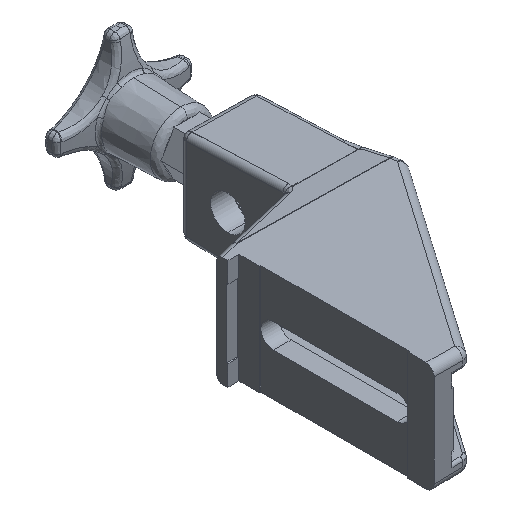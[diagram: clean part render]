
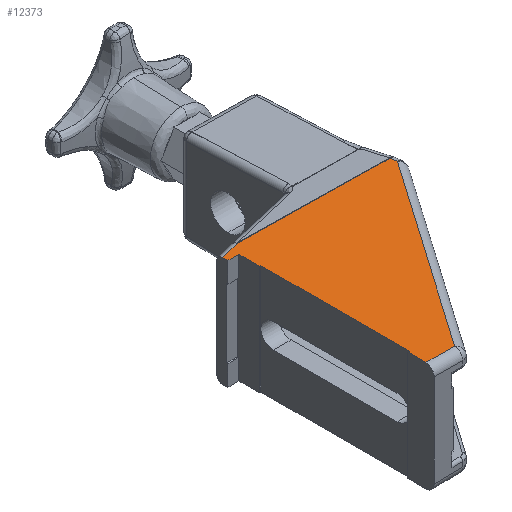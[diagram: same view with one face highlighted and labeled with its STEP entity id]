
A CAD part, isometric view. The second image highlights one B-rep face of the part: STEP entity #12373.
In plain terms, the highlighted planar face has unit normal (0.018, 0, 1).
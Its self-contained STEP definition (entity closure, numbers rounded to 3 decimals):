
#412 = ORIENTED_EDGE ( 'NONE', *, *, #2656, .T. ) ;
#506 = LINE ( 'NONE', #12046, #11286 ) ;
#707 = VECTOR ( 'NONE', #12435, 1000. ) ;
#708 = EDGE_CURVE ( 'NONE', #851, #13074, #1953, .T. ) ;
#740 = EDGE_LOOP ( 'NONE', ( #11557, #15552, #6639, #2861, #412, #11792, #2417, #12205, #10012, #9974, #8232, #1031 ) ) ;
#851 = VERTEX_POINT ( 'NONE', #5259 ) ;
#989 = VERTEX_POINT ( 'NONE', #1164 ) ;
#1031 = ORIENTED_EDGE ( 'NONE', *, *, #16150, .T. ) ;
#1164 = CARTESIAN_POINT ( 'NONE',  ( -29.125, 9.25, 19.93 ) ) ;
#1570 = VERTEX_POINT ( 'NONE', #14105 ) ;
#1679 = EDGE_CURVE ( 'NONE', #5538, #4801, #4520, .T. ) ;
#1845 = VERTEX_POINT ( 'NONE', #6693 ) ;
#1953 = LINE ( 'NONE', #13908, #14347 ) ;
#2213 = LINE ( 'NONE', #14532, #14420 ) ;
#2417 = ORIENTED_EDGE ( 'NONE', *, *, #8870, .T. ) ;
#2472 = DIRECTION ( 'NONE',  ( 0., -1., 0. ) ) ;
#2477 = DIRECTION ( 'NONE',  ( 1., 0., -0.017 ) ) ;
#2652 = CARTESIAN_POINT ( 'NONE',  ( -29.125, -58.75, 19.93 ) ) ;
#2656 = EDGE_CURVE ( 'NONE', #989, #11874, #12018, .T. ) ;
#2729 = CARTESIAN_POINT ( 'NONE',  ( -28.625, -63.6, 19.921 ) ) ;
#2735 = LINE ( 'NONE', #3219, #707 ) ;
#2772 = CARTESIAN_POINT ( 'NONE',  ( -119.436, -58.75, 21.507 ) ) ;
#2861 = ORIENTED_EDGE ( 'NONE', *, *, #3469, .T. ) ;
#2910 = EDGE_CURVE ( 'NONE', #13741, #4801, #2213, .T. ) ;
#2948 = CARTESIAN_POINT ( 'NONE',  ( -29.125, 1.75, 19.93 ) ) ;
#3219 = CARTESIAN_POINT ( 'NONE',  ( -33.125, -52.25, 20. ) ) ;
#3460 = CARTESIAN_POINT ( 'NONE',  ( -25.884, 13.11, 19.874 ) ) ;
#3469 = EDGE_CURVE ( 'NONE', #13074, #989, #10983, .T. ) ;
#3563 = CARTESIAN_POINT ( 'NONE',  ( 11.145, 13.076, 19.227 ) ) ;
#4520 = LINE ( 'NONE', #2772, #10722 ) ;
#4753 = DIRECTION ( 'NONE',  ( 1., 0., -0.017 ) ) ;
#4801 = VERTEX_POINT ( 'NONE', #2652 ) ;
#5154 = VERTEX_POINT ( 'NONE', #9873 ) ;
#5163 = EDGE_CURVE ( 'NONE', #5154, #11352, #16277, .T. ) ;
#5216 = CARTESIAN_POINT ( 'NONE',  ( 30.025, 10.743, 18.898 ) ) ;
#5259 = CARTESIAN_POINT ( 'NONE',  ( -33.125, 11.17, 20. ) ) ;
#5496 = DIRECTION ( 'NONE',  ( 0., -1., 0. ) ) ;
#5538 = VERTEX_POINT ( 'NONE', #14877 ) ;
#6280 = LINE ( 'NONE', #9697, #9477 ) ;
#6380 = DIRECTION ( 'NONE',  ( 0.017, 0., 1. ) ) ;
#6411 = EDGE_CURVE ( 'NONE', #11874, #11026, #7922, .T. ) ;
#6639 = ORIENTED_EDGE ( 'NONE', *, *, #708, .T. ) ;
#6693 = CARTESIAN_POINT ( 'NONE',  ( -28.625, -52.25, 19.921 ) ) ;
#6714 = DIRECTION ( 'NONE',  ( -1., 0., 0.017 ) ) ;
#6868 = CARTESIAN_POINT ( 'NONE',  ( -25.884, 13.11, 19.874 ) ) ;
#7012 = DIRECTION ( 'NONE',  ( 0., -1., 0. ) ) ;
#7234 = CARTESIAN_POINT ( 'NONE',  ( 29.659, 13.059, 18.904 ) ) ;
#7601 = CARTESIAN_POINT ( 'NONE',  ( -29.125, 1.75, 19.93 ) ) ;
#7763 = EDGE_CURVE ( 'NONE', #1845, #13741, #2735, .T. ) ;
#7922 = LINE ( 'NONE', #2948, #9715 ) ;
#8232 = ORIENTED_EDGE ( 'NONE', *, *, #9340, .T. ) ;
#8392 = VECTOR ( 'NONE', #9116, 1000. ) ;
#8439 = CARTESIAN_POINT ( 'NONE',  ( -33.125, 9.25, 20. ) ) ;
#8870 = EDGE_CURVE ( 'NONE', #11026, #1845, #12301, .T. ) ;
#8972 = EDGE_CURVE ( 'NONE', #11352, #851, #506, .T. ) ;
#9116 = DIRECTION ( 'NONE',  ( 0., -1., 0. ) ) ;
#9169 = DIRECTION ( 'NONE',  ( -0.156, 0.988, 0.003 ) ) ;
#9340 = EDGE_CURVE ( 'NONE', #5538, #1570, #6280, .T. ) ;
#9477 = VECTOR ( 'NONE', #10883, 1000. ) ;
#9697 = CARTESIAN_POINT ( 'NONE',  ( -18.634, -58.75, 19.747 ) ) ;
#9715 = VECTOR ( 'NONE', #12944, 1000. ) ;
#9873 = CARTESIAN_POINT ( 'NONE',  ( 29.659, 13.059, 18.904 ) ) ;
#9974 = ORIENTED_EDGE ( 'NONE', *, *, #1679, .F. ) ;
#10012 = ORIENTED_EDGE ( 'NONE', *, *, #2910, .T. ) ;
#10291 = FACE_OUTER_BOUND ( 'NONE', #740, .T. ) ;
#10334 = PLANE ( 'NONE',  #14737 ) ;
#10722 = VECTOR ( 'NONE', #6714, 1000. ) ;
#10883 = DIRECTION ( 'NONE',  ( 0.574, 0.819, -0.01 ) ) ;
#10983 = LINE ( 'NONE', #8439, #11388 ) ;
#11026 = VERTEX_POINT ( 'NONE', #12157 ) ;
#11286 = VECTOR ( 'NONE', #12200, 1000. ) ;
#11352 = VERTEX_POINT ( 'NONE', #6868 ) ;
#11388 = VECTOR ( 'NONE', #4753, 1000. ) ;
#11557 = ORIENTED_EDGE ( 'NONE', *, *, #5163, .T. ) ;
#11792 = ORIENTED_EDGE ( 'NONE', *, *, #6411, .T. ) ;
#11850 = CARTESIAN_POINT ( 'NONE',  ( -29.125, -52.25, 19.93 ) ) ;
#11874 = VERTEX_POINT ( 'NONE', #7601 ) ;
#12018 = LINE ( 'NONE', #14224, #8392 ) ;
#12046 = CARTESIAN_POINT ( 'NONE',  ( -25.884, 13.11, 19.874 ) ) ;
#12157 = CARTESIAN_POINT ( 'NONE',  ( -28.625, 1.75, 19.921 ) ) ;
#12200 = DIRECTION ( 'NONE',  ( -0.966, -0.259, 0.017 ) ) ;
#12205 = ORIENTED_EDGE ( 'NONE', *, *, #7763, .T. ) ;
#12301 = LINE ( 'NONE', #2729, #16098 ) ;
#12373 = ADVANCED_FACE ( 'NONE', ( #10291 ), #10334, .T. ) ;
#12435 = DIRECTION ( 'NONE',  ( -1., 0., 0.017 ) ) ;
#12944 = DIRECTION ( 'NONE',  ( 1., 0., -0.017 ) ) ;
#13074 = VERTEX_POINT ( 'NONE', #13115 ) ;
#13115 = CARTESIAN_POINT ( 'NONE',  ( -33.125, 9.25, 20. ) ) ;
#13741 = VERTEX_POINT ( 'NONE', #11850 ) ;
#13843 = VECTOR ( 'NONE', #9169, 1000. ) ;
#13908 = CARTESIAN_POINT ( 'NONE',  ( -33.125, -63.6, 20. ) ) ;
#14105 = CARTESIAN_POINT ( 'NONE',  ( 30.025, 10.743, 18.898 ) ) ;
#14224 = CARTESIAN_POINT ( 'NONE',  ( -29.125, -63.6, 19.93 ) ) ;
#14347 = VECTOR ( 'NONE', #2472, 1000. ) ;
#14420 = VECTOR ( 'NONE', #7012, 1000. ) ;
#14532 = CARTESIAN_POINT ( 'NONE',  ( -29.125, -61.75, 19.93 ) ) ;
#14737 = AXIS2_PLACEMENT_3D ( 'NONE', #16596, #6380, #2477 ) ;
#14877 = CARTESIAN_POINT ( 'NONE',  ( -18.634, -58.75, 19.747 ) ) ;
#15552 = ORIENTED_EDGE ( 'NONE', *, *, #8972, .T. ) ;
#16038 = LINE ( 'NONE', #5216, #13843 ) ;
#16098 = VECTOR ( 'NONE', #5496, 1000. ) ;
#16150 = EDGE_CURVE ( 'NONE', #1570, #5154, #16038, .T. ) ;
#16250 = CARTESIAN_POINT ( 'NONE',  ( -7.369, 13.093, 19.55 ) ) ;
#16277 = B_SPLINE_CURVE_WITH_KNOTS ( 'NONE', 3,
 ( #7234, #3563, #16250, #3460 ),
 .UNSPECIFIED., .F., .F.,
 ( 4, 4 ),
 ( 0., 1. ),
 .UNSPECIFIED. ) ;
#16596 = CARTESIAN_POINT ( 'NONE',  ( -33.125, -63.6, 20. ) ) ;
